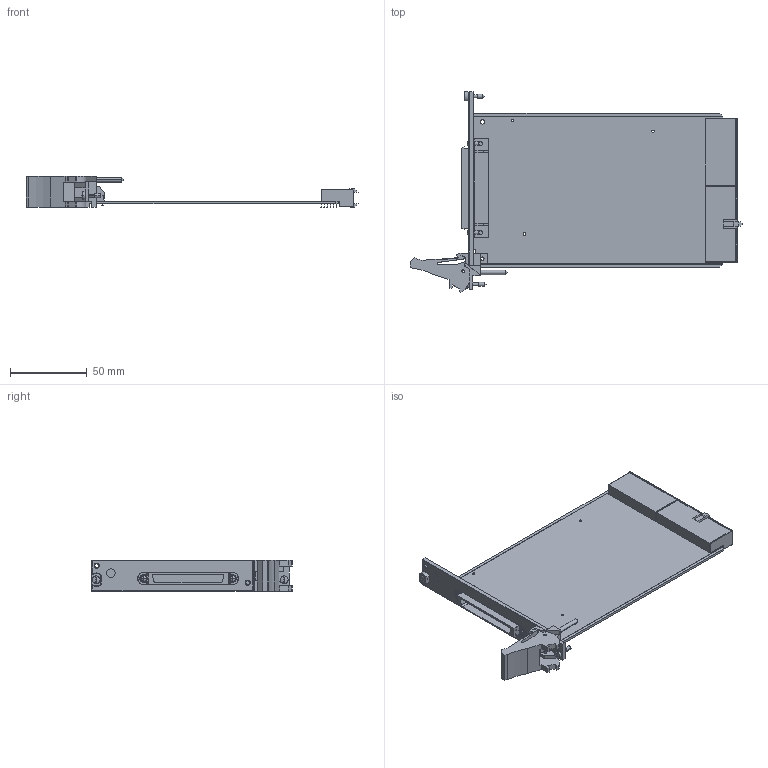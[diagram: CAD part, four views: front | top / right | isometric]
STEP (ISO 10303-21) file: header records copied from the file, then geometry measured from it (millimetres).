
FILE_DESCRIPTION((''),'2;1');
FILE_NAME('CU_PXI-MOD-68POS_STD-SCSI','2011-09-26T',('dkendric'),(''),'PRO/ENGINEER BY PARAMETRIC TECHNOLOGY CORPORATION, 2010230','PRO/ENGINEER BY PARAMETRIC TECHNOLOGY CORPORATION, 2010230','');
FILE_SCHEMA(('CONFIG_CONTROL_DESIGN'));
Length unit declared in the file: inch
Products named in the file (1): CU_PXI-MOD-68POS_STD-SCSI
Bounding box: 216.08 x 130.62 x 20.19 mm (x, y, z)
Volume: 59058 mm3; surface area: 52485.2 mm2
Topology: 1 solids, 1 shells, 564 faces, 1471 edges, 964 vertices
Faces by surface type: plane 376, cylinder 172, sphere 8, cone 8
Entity records: 17423 total; most frequent: CARTESIAN_POINT 3081, DIRECTION 2992, ORIENTED_EDGE 2934, EDGE_CURVE 1467, VECTOR 1064, LINE 1064, AXIS2_PLACEMENT_3D 964, VERTEX_POINT 964
